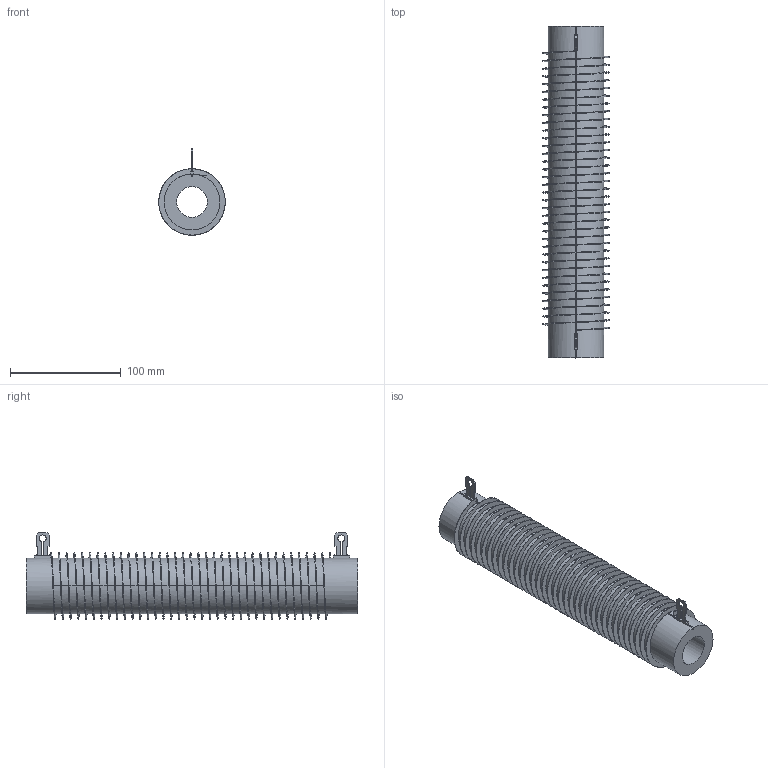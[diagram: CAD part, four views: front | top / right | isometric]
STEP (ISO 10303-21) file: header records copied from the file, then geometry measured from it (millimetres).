
FILE_DESCRIPTION(/* description */ (''),/* implementation_level */ '2;1');
FILE_NAME(/* name */ 'C:\_Vault\Dati\CATALOGO\RCPO-RSPO\RCPO-RSPO 500-1500\CPO0600.stp',/* time_stamp */ '2014-01-22T16:59:06+01:00',/* author */ ('stefano'),/* organization */ (''),/* preprocessor_version */ 'ST-DEVELOPER v15.2',/* originating_system */ 'Autodesk Inventor 2014',/* authorisation */ '');
FILE_SCHEMA (('AUTOMOTIVE_DESIGN { 1 0 10303 214 3 1 1 }'));
Length unit declared in the file: millimetre
Products named in the file (1): CPO0600
Bounding box: 60 x 300 x 78 mm (x, y, z)
Volume: 436169.6 mm3; surface area: 140775 mm2
Topology: 1 solids, 1 shells, 111 faces, 321 edges, 213 vertices
Faces by surface type: plane 66, cylinder 43, bspline 2
Full cylindrical faces by diameter (mm): 28 x1, 50.3 x36
Entity records: 8962 total; most frequent: CARTESIAN_POINT 6813, ORIENTED_EDGE 424, DIRECTION 393, EDGE_CURVE 211, LINE 171, VECTOR 171, VERTEX_POINT 141, AXIS2_PLACEMENT_3D 111
